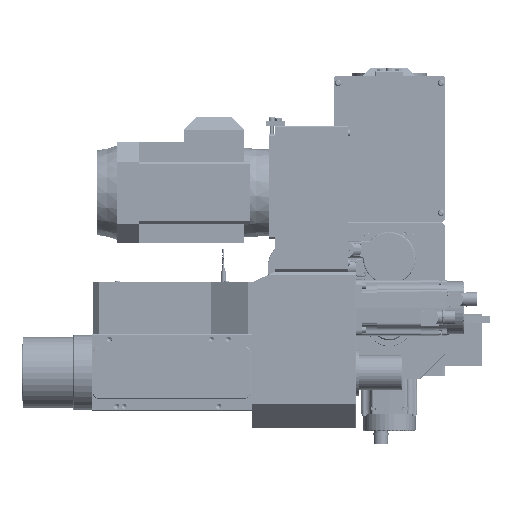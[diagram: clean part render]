
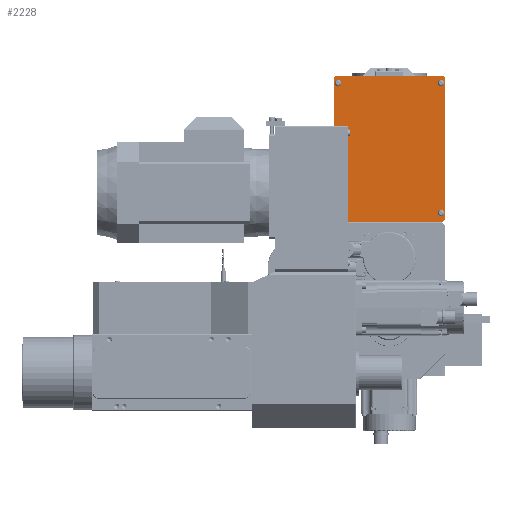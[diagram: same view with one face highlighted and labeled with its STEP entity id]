
A CAD part, front view. The second image highlights one B-rep face of the part: STEP entity #2228.
In plain terms, the highlighted planar face has unit normal (0, -1, 0) as drawn and (0, 0, 1) by its records, which use the part's own axes.
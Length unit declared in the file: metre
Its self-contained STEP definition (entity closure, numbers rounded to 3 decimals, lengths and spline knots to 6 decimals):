
#2228 = ADVANCED_FACE( '', ( #3938 ), #3939, .T. );
#3938 = FACE_OUTER_BOUND( '', #7535, .T. );
#3939 = PLANE( '', #7536 );
#7535 = EDGE_LOOP( '', ( #12596, #12597, #12598, #12599, #12600, #12601, #12602, #12603 ) );
#7536 = AXIS2_PLACEMENT_3D( '', #12604, #12605, #12606 );
#12596 = ORIENTED_EDGE( '', *, *, #22519, .F. );
#12597 = ORIENTED_EDGE( '', *, *, #22537, .F. );
#12598 = ORIENTED_EDGE( '', *, *, #22538, .F. );
#12599 = ORIENTED_EDGE( '', *, *, #22539, .F. );
#12600 = ORIENTED_EDGE( '', *, *, #22534, .F. );
#12601 = ORIENTED_EDGE( '', *, *, #22540, .F. );
#12602 = ORIENTED_EDGE( '', *, *, #22526, .F. );
#12603 = ORIENTED_EDGE( '', *, *, #22523, .F. );
#12604 = CARTESIAN_POINT( '', ( -0.0005, 0.0905, 0.006 ) );
#12605 = DIRECTION( '', ( 0., 0., 1. ) );
#12606 = DIRECTION( '', ( 1., 0., 0. ) );
#22519 = EDGE_CURVE( '', #25870, #25871, #25872, .T. );
#22523 = EDGE_CURVE( '', #25871, #25878, #25879, .T. );
#22526 = EDGE_CURVE( '', #25878, #25883, #25884, .T. );
#22534 = EDGE_CURVE( '', #25897, #25898, #25899, .T. );
#22537 = EDGE_CURVE( '', #25902, #25870, #25903, .T. );
#22538 = EDGE_CURVE( '', #25904, #25902, #25905, .T. );
#22539 = EDGE_CURVE( '', #25898, #25904, #25906, .T. );
#22540 = EDGE_CURVE( '', #25883, #25897, #25907, .T. );
#25870 = VERTEX_POINT( '', #31302 );
#25871 = VERTEX_POINT( '', #31303 );
#25872 = LINE( '', #31304, #31305 );
#25878 = VERTEX_POINT( '', #31314 );
#25879 = LINE( '', #31315, #31316 );
#25883 = VERTEX_POINT( '', #31322 );
#25884 = LINE( '', #31323, #31324 );
#25897 = VERTEX_POINT( '', #31344 );
#25898 = VERTEX_POINT( '', #31345 );
#25899 = LINE( '', #31346, #31347 );
#25902 = VERTEX_POINT( '', #31352 );
#25903 = LINE( '', #31353, #31354 );
#25904 = VERTEX_POINT( '', #31355 );
#25905 = LINE( '', #31356, #31357 );
#25906 = LINE( '', #31358, #31359 );
#25907 = LINE( '', #31360, #31361 );
#31302 = CARTESIAN_POINT( '', ( 0.0875, 0.2085, 0.006 ) );
#31303 = CARTESIAN_POINT( '', ( 0.0895, 0.2065, 0.006 ) );
#31304 = CARTESIAN_POINT( '', ( 0.0955, 0.2005, 0.006 ) );
#31305 = VECTOR( '', #41410, 1. );
#31314 = CARTESIAN_POINT( '', ( 0.0895, -0.0225, 0.006 ) );
#31315 = CARTESIAN_POINT( '', ( 0.0895, -0.0275, 0.006 ) );
#31316 = VECTOR( '', #41414, 1. );
#31322 = CARTESIAN_POINT( '', ( 0.0845, -0.0275, 0.006 ) );
#31323 = CARTESIAN_POINT( '', ( 0.094, -0.018, 0.006 ) );
#31324 = VECTOR( '', #41417, 1. );
#31344 = CARTESIAN_POINT( '', ( -0.0855, -0.0275, 0.006 ) );
#31345 = CARTESIAN_POINT( '', ( -0.0905, -0.0225, 0.006 ) );
#31346 = CARTESIAN_POINT( '', ( -0.095, -0.018, 0.006 ) );
#31347 = VECTOR( '', #41425, 1. );
#31352 = CARTESIAN_POINT( '', ( -0.0885, 0.2085, 0.006 ) );
#31353 = CARTESIAN_POINT( '', ( 0.0895, 0.2085, 0.006 ) );
#31354 = VECTOR( '', #41428, 1. );
#31355 = CARTESIAN_POINT( '', ( -0.0905, 0.2065, 0.006 ) );
#31356 = CARTESIAN_POINT( '', ( -0.0965, 0.2005, 0.006 ) );
#31357 = VECTOR( '', #41429, 1. );
#31358 = CARTESIAN_POINT( '', ( -0.0905, 0.2085, 0.006 ) );
#31359 = VECTOR( '', #41430, 1. );
#31360 = CARTESIAN_POINT( '', ( -0.0905, -0.0275, 0.006 ) );
#31361 = VECTOR( '', #41431, 1. );
#41410 = DIRECTION( '', ( 0.707, -0.707, 0. ) );
#41414 = DIRECTION( '', ( 0., -1., 0. ) );
#41417 = DIRECTION( '', ( -0.707, -0.707, 0. ) );
#41425 = DIRECTION( '', ( -0.707, 0.707, 0. ) );
#41428 = DIRECTION( '', ( 1., 0., 0. ) );
#41429 = DIRECTION( '', ( 0.707, 0.707, 0. ) );
#41430 = DIRECTION( '', ( 0., 1., 0. ) );
#41431 = DIRECTION( '', ( -1., 0., 0. ) );
